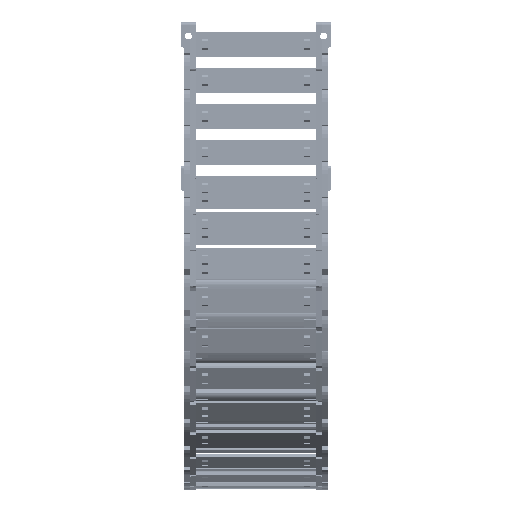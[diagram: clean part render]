
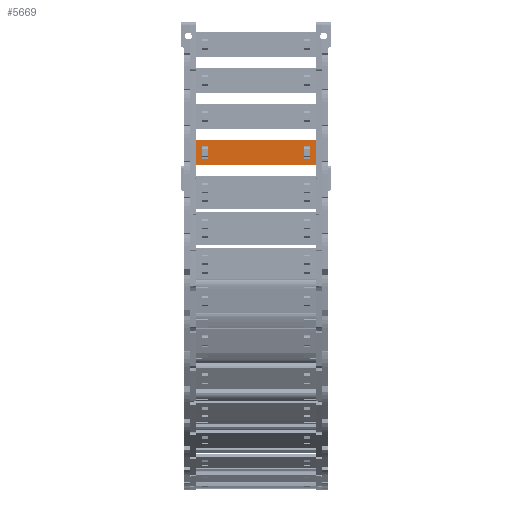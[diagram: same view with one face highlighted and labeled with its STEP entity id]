
A CAD part, left-side view. The second image highlights one B-rep face of the part: STEP entity #5669.
In plain terms, the highlighted planar face has unit normal (-1, 0, 0) as drawn and (0, 1, 0) by its records, which use the part's own axes.
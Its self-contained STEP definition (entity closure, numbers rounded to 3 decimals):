
#5089=DIRECTION('',(0.,0.,1.));
#5090=VECTOR('',#5089,15.8);
#5091=CARTESIAN_POINT('',(62.24,1.5,-7.9));
#5092=LINE('',#5091,#5090);
#5093=DIRECTION('',(-1.,0.,0.));
#5094=VECTOR('',#5093,77.);
#5095=CARTESIAN_POINT('',(62.24,1.5,7.9));
#5096=LINE('',#5095,#5094);
#5097=DIRECTION('',(0.,0.,-1.));
#5098=VECTOR('',#5097,15.8);
#5099=CARTESIAN_POINT('',(-14.76,1.5,7.9));
#5100=LINE('',#5099,#5098);
#5101=DIRECTION('',(1.,0.,0.));
#5102=VECTOR('',#5101,3.648);
#5103=CARTESIAN_POINT('',(54.622,1.5,4.075));
#5104=LINE('',#5103,#5102);
#5105=DIRECTION('',(0.,0.,-1.));
#5106=VECTOR('',#5105,8.15);
#5107=CARTESIAN_POINT('',(58.27,1.5,4.075));
#5108=LINE('',#5107,#5106);
#5109=DIRECTION('',(-1.,0.,0.));
#5110=VECTOR('',#5109,3.648);
#5111=CARTESIAN_POINT('',(58.27,1.5,-4.075));
#5112=LINE('',#5111,#5110);
#5113=DIRECTION('',(0.,0.,-1.));
#5114=VECTOR('',#5113,8.15);
#5115=CARTESIAN_POINT('',(-7.142,1.5,4.075));
#5116=LINE('',#5115,#5114);
#5117=DIRECTION('',(-1.,0.,0.));
#5118=VECTOR('',#5117,3.648);
#5119=CARTESIAN_POINT('',(-7.142,1.5,-4.075));
#5120=LINE('',#5119,#5118);
#5121=DIRECTION('',(0.,0.,1.));
#5122=VECTOR('',#5121,8.15);
#5123=CARTESIAN_POINT('',(-10.79,1.5,-4.075));
#5124=LINE('',#5123,#5122);
#5125=DIRECTION('',(1.,0.,0.));
#5126=VECTOR('',#5125,3.648);
#5127=CARTESIAN_POINT('',(-10.79,1.5,4.075));
#5128=LINE('',#5127,#5126);
#5133=DIRECTION('',(-1.,0.,0.));
#5134=VECTOR('',#5133,77.);
#5135=CARTESIAN_POINT('',(62.24,1.5,-7.9));
#5136=LINE('',#5135,#5134);
#5254=DIRECTION('',(0.,0.,-1.));
#5255=VECTOR('',#5254,8.15);
#5256=CARTESIAN_POINT('',(54.622,1.5,4.075));
#5257=LINE('',#5256,#5255);
#5439=CARTESIAN_POINT('',(58.27,1.5,4.075));
#5440=VERTEX_POINT('',#5439);
#5441=CARTESIAN_POINT('',(54.622,1.5,4.075));
#5442=VERTEX_POINT('',#5441);
#5483=CARTESIAN_POINT('',(54.622,1.5,-4.075));
#5484=VERTEX_POINT('',#5483);
#5485=CARTESIAN_POINT('',(58.27,1.5,-4.075));
#5486=VERTEX_POINT('',#5485);
#5487=CARTESIAN_POINT('',(62.24,1.5,7.9));
#5489=VERTEX_POINT('',#5487);
#5491=CARTESIAN_POINT('',(62.24,1.5,-7.9));
#5492=VERTEX_POINT('',#5491);
#5515=CARTESIAN_POINT('',(-7.142,1.5,4.075));
#5516=CARTESIAN_POINT('',(-7.142,1.5,-4.075));
#5517=VERTEX_POINT('',#5515);
#5518=VERTEX_POINT('',#5516);
#5519=CARTESIAN_POINT('',(-10.79,1.5,-4.075));
#5520=VERTEX_POINT('',#5519);
#5521=CARTESIAN_POINT('',(-10.79,1.5,4.075));
#5522=VERTEX_POINT('',#5521);
#5523=CARTESIAN_POINT('',(-14.76,1.5,7.9));
#5524=VERTEX_POINT('',#5523);
#5527=CARTESIAN_POINT('',(-14.76,1.5,-7.9));
#5528=VERTEX_POINT('',#5527);
#5638=CARTESIAN_POINT('',(93.98,1.5,10.061));
#5639=DIRECTION('',(0.,-1.,0.));
#5640=DIRECTION('',(0.,0.,-1.));
#5641=AXIS2_PLACEMENT_3D('',#5638,#5639,#5640);
#5642=PLANE('',#5641);
#5643=ORIENTED_EDGE('',*,*,#5577,.T.);
#5644=ORIENTED_EDGE('',*,*,#5603,.T.);
#5645=ORIENTED_EDGE('',*,*,#5616,.T.);
#5647=ORIENTED_EDGE('',*,*,#5646,.F.);
#5648=EDGE_LOOP('',(#5643,#5644,#5645,#5647));
#5649=FACE_OUTER_BOUND('',#5648,.F.);
#5651=ORIENTED_EDGE('',*,*,#5650,.F.);
#5652=ORIENTED_EDGE('',*,*,#5540,.T.);
#5654=ORIENTED_EDGE('',*,*,#5653,.T.);
#5656=ORIENTED_EDGE('',*,*,#5655,.T.);
#5657=EDGE_LOOP('',(#5651,#5652,#5654,#5656));
#5658=FACE_BOUND('',#5657,.F.);
#5660=ORIENTED_EDGE('',*,*,#5659,.T.);
#5662=ORIENTED_EDGE('',*,*,#5661,.T.);
#5664=ORIENTED_EDGE('',*,*,#5663,.T.);
#5666=ORIENTED_EDGE('',*,*,#5665,.T.);
#5667=EDGE_LOOP('',(#5660,#5662,#5664,#5666));
#5668=FACE_BOUND('',#5667,.F.);
#5669=ADVANCED_FACE('',(#5649,#5658,#5668),#5642,.F.);
#5540=EDGE_CURVE('',#5442,#5440,#5104,.T.);
#5577=EDGE_CURVE('',#5492,#5489,#5092,.T.);
#5603=EDGE_CURVE('',#5489,#5524,#5096,.T.);
#5616=EDGE_CURVE('',#5524,#5528,#5100,.T.);
#5646=EDGE_CURVE('',#5492,#5528,#5136,.T.);
#5650=EDGE_CURVE('',#5442,#5484,#5257,.T.);
#5653=EDGE_CURVE('',#5440,#5486,#5108,.T.);
#5655=EDGE_CURVE('',#5486,#5484,#5112,.T.);
#5659=EDGE_CURVE('',#5517,#5518,#5116,.T.);
#5661=EDGE_CURVE('',#5518,#5520,#5120,.T.);
#5663=EDGE_CURVE('',#5520,#5522,#5124,.T.);
#5665=EDGE_CURVE('',#5522,#5517,#5128,.T.);
